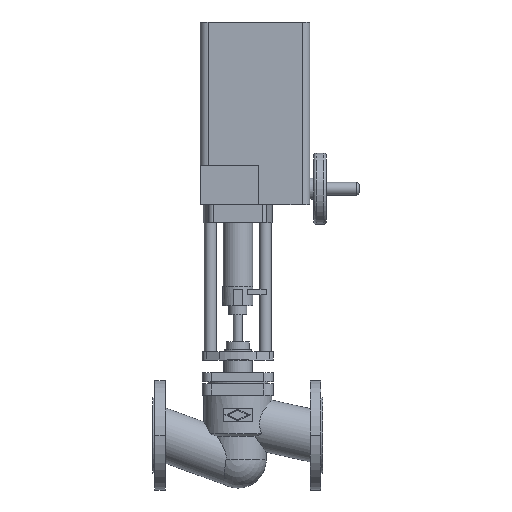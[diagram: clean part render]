
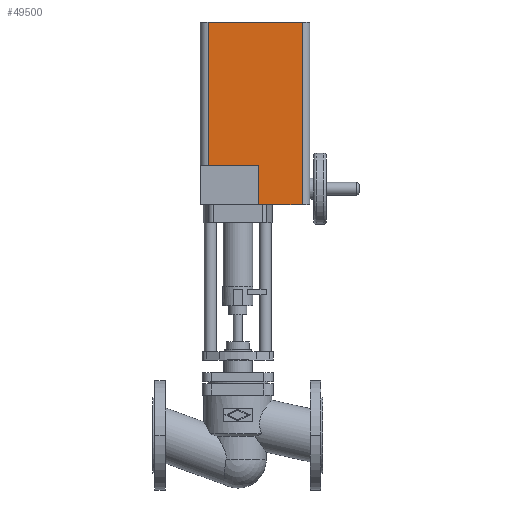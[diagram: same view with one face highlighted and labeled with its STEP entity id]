
A CAD part, top view. The second image highlights one B-rep face of the part: STEP entity #49500.
In plain terms, the highlighted planar face has unit normal (0, 0, 1).
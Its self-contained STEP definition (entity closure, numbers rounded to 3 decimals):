
#42920=CARTESIAN_POINT('',(193.1,421.5,114.));
#42930=VERTEX_POINT('',#42920);
#42980=CARTESIAN_POINT('',(100.6,421.5,114.));
#42990=DIRECTION('',(1.,0.,0.));
#43000=VECTOR('',#42990,1.);
#43010=LINE('',#42980,#43000);
#43020=CARTESIAN_POINT('',(272.6,421.5,114.));
#43030=VERTEX_POINT('',#43020);
#43040=EDGE_CURVE('',#42930,#43030,#43010,.T.);
#45050=CARTESIAN_POINT('',(193.1,493.,114.));
#45060=VERTEX_POINT('',#45050);
#45090=CARTESIAN_POINT('',(193.1,421.5,114.));
#45100=DIRECTION('',(0.,-1.,0.));
#45110=VECTOR('',#45100,1.);
#45120=LINE('',#45090,#45110);
#45130=EDGE_CURVE('',#45060,#42930,#45120,.T.);
#45460=CARTESIAN_POINT('',(100.6,755.,114.));
#45470=VERTEX_POINT('',#45460);
#45500=CARTESIAN_POINT('',(100.6,421.5,114.));
#45510=DIRECTION('',(0.,1.,0.));
#45520=VECTOR('',#45510,1.);
#45530=LINE('',#45500,#45520);
#45540=CARTESIAN_POINT('',(100.6,493.,114.));
#45550=VERTEX_POINT('',#45540);
#45560=EDGE_CURVE('',#45550,#45470,#45530,.T.);
#48930=CARTESIAN_POINT('',(272.6,421.5,114.));
#48940=DIRECTION('',(0.,-1.,0.));
#48950=VECTOR('',#48940,1.);
#48960=LINE('',#48930,#48950);
#48970=CARTESIAN_POINT('',(272.6,755.,114.));
#48980=VERTEX_POINT('',#48970);
#48990=EDGE_CURVE('',#48980,#43030,#48960,.T.);
#49210=CARTESIAN_POINT('',(100.6,755.,114.));
#49220=DIRECTION('',(-1.,0.,0.));
#49230=VECTOR('',#49220,1.);
#49240=LINE('',#49210,#49230);
#49250=EDGE_CURVE('',#48980,#45470,#49240,.T.);
#49320=CARTESIAN_POINT('',(272.6,421.5,114.));
#49330=DIRECTION('',(0.,0.,1.));
#49340=DIRECTION('',(1.,0.,0.));
#49350=AXIS2_PLACEMENT_3D('',#49320,#49330,#49340);
#49360=PLANE('',#49350);
#49370=ORIENTED_EDGE('',*,*,#45560,.F.);
#49380=ORIENTED_EDGE('',*,*,#49250,.T.);
#49390=ORIENTED_EDGE('',*,*,#48990,.F.);
#49400=ORIENTED_EDGE('',*,*,#43040,.T.);
#49410=ORIENTED_EDGE('',*,*,#45130,.T.);
#49420=CARTESIAN_POINT('',(213.8,493.,114.));
#49430=DIRECTION('',(1.,0.,0.));
#49440=VECTOR('',#49430,1.);
#49450=LINE('',#49420,#49440);
#49460=EDGE_CURVE('',#45550,#45060,#49450,.T.);
#49470=ORIENTED_EDGE('',*,*,#49460,.T.);
#49480=EDGE_LOOP('',(#49470,#49410,#49400,#49390,#49380,#49370));
#49490=FACE_OUTER_BOUND('',#49480,.T.);
#49500=ADVANCED_FACE('',(#49490),#49360,.T.);
